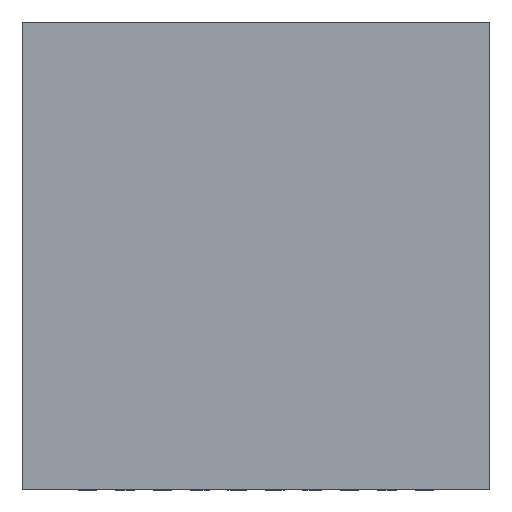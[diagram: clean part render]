
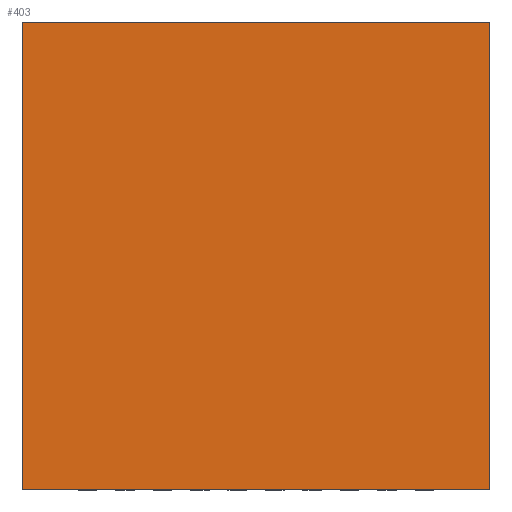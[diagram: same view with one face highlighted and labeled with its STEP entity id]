
A CAD part, top view. The second image highlights one B-rep face of the part: STEP entity #403.
In plain terms, the highlighted planar face has unit normal (0, 0, 1).
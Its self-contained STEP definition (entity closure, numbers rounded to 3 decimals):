
#47 = EDGE_CURVE('',#48,#50,#52,.T.);
#48 = VERTEX_POINT('',#49);
#49 = CARTESIAN_POINT('',(-2.5,-2.5,0.75));
#50 = VERTEX_POINT('',#51);
#51 = CARTESIAN_POINT('',(-2.5,2.5,0.75));
#52 = LINE('',#53,#54);
#53 = CARTESIAN_POINT('',(-2.5,-2.5,0.75));
#54 = VECTOR('',#55,1.);
#55 = DIRECTION('',(-0.,1.,0.));
#403 = ADVANCED_FACE('',(#404),#429,.T.);
#404 = FACE_BOUND('',#405,.T.);
#405 = EDGE_LOOP('',(#406,#407,#415,#423));
#406 = ORIENTED_EDGE('',*,*,#47,.F.);
#407 = ORIENTED_EDGE('',*,*,#408,.T.);
#408 = EDGE_CURVE('',#48,#409,#411,.T.);
#409 = VERTEX_POINT('',#410);
#410 = CARTESIAN_POINT('',(2.5,-2.5,0.75));
#411 = LINE('',#412,#413);
#412 = CARTESIAN_POINT('',(-2.5,-2.5,0.75));
#413 = VECTOR('',#414,1.);
#414 = DIRECTION('',(1.,0.,-0.));
#415 = ORIENTED_EDGE('',*,*,#416,.T.);
#416 = EDGE_CURVE('',#409,#417,#419,.T.);
#417 = VERTEX_POINT('',#418);
#418 = CARTESIAN_POINT('',(2.5,2.5,0.75));
#419 = LINE('',#420,#421);
#420 = CARTESIAN_POINT('',(2.5,-2.5,0.75));
#421 = VECTOR('',#422,1.);
#422 = DIRECTION('',(-0.,1.,0.));
#423 = ORIENTED_EDGE('',*,*,#424,.F.);
#424 = EDGE_CURVE('',#50,#417,#425,.T.);
#425 = LINE('',#426,#427);
#426 = CARTESIAN_POINT('',(-2.5,2.5,0.75));
#427 = VECTOR('',#428,1.);
#428 = DIRECTION('',(1.,0.,-0.));
#429 = PLANE('',#430);
#430 = AXIS2_PLACEMENT_3D('',#431,#432,#433);
#431 = CARTESIAN_POINT('',(-2.5,-2.5,0.75));
#432 = DIRECTION('',(0.,0.,1.));
#433 = DIRECTION('',(1.,0.,-0.));
